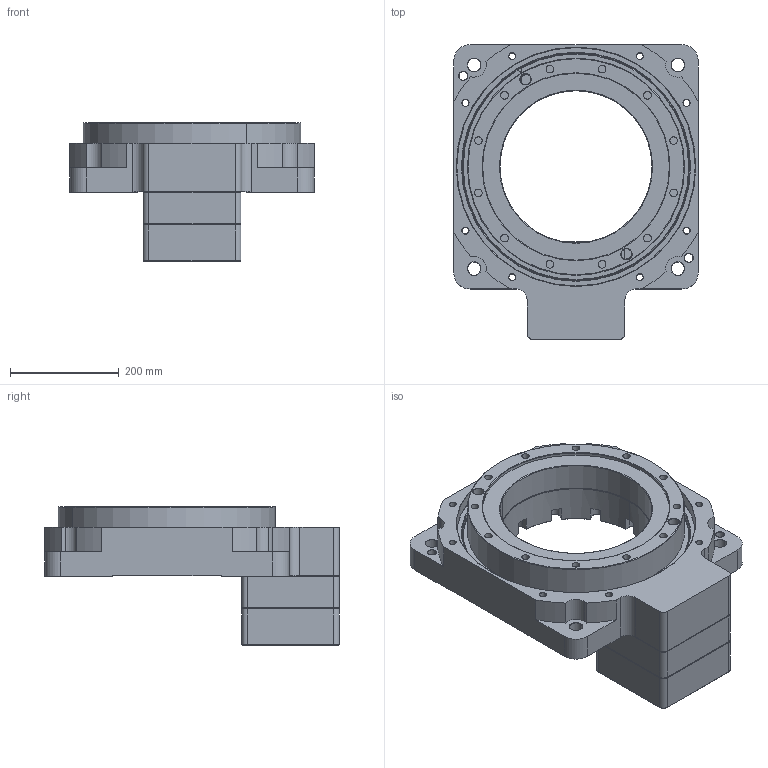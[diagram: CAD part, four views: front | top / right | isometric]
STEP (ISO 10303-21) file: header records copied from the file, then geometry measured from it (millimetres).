
FILE_DESCRIPTION (( 'STEP AP203' ), '1' );
FILE_NAME ('450-10-24-95-110.STEP', '2022-06-16T10:14:36', ( '' ), ( '' ), 'SwSTEP 2.0', 'SolidWorks 2018', '' );
FILE_SCHEMA (( 'CONFIG_CONTROL_DESIGN' ));
Length unit declared in the file: millimetre
Products named in the file (1): 450-10-24-95-110
Bounding box: 450 x 542.6 x 255 mm (x, y, z)
Surface area: 1100975.4 mm2 (no closed solid volume)
Topology: 0 solids, 20 shells, 516 faces, 1471 edges, 969 vertices
Faces by surface type: cylinder 200, cone 167, plane 133, torus 14, bspline 2
Entity records: 17443 total; most frequent: CARTESIAN_POINT 3577, DIRECTION 3108, ORIENTED_EDGE 2588, EDGE_CURVE 1471, AXIS2_PLACEMENT_3D 1213, VERTEX_POINT 969, CIRCLE 698, VECTOR 682
